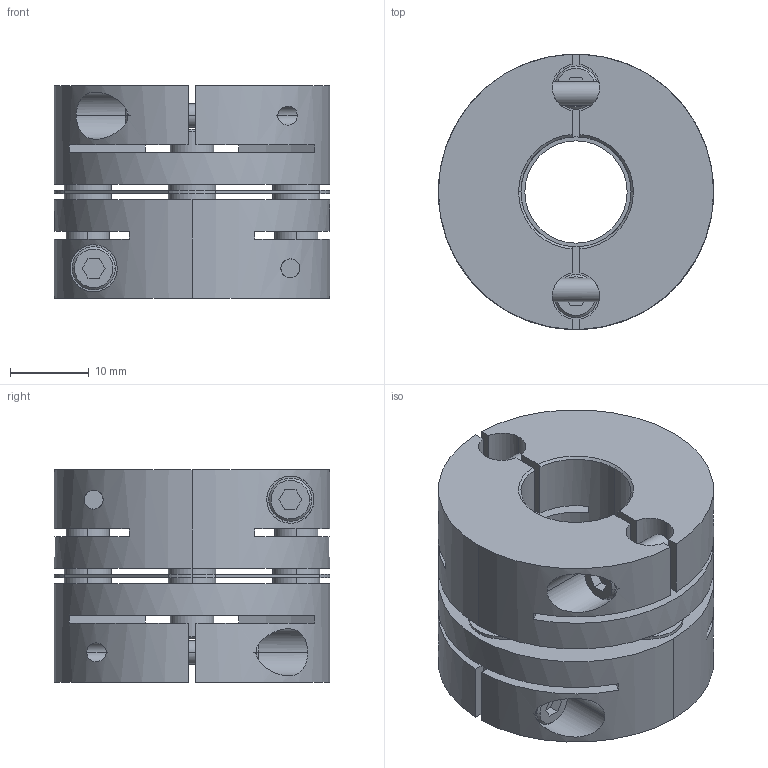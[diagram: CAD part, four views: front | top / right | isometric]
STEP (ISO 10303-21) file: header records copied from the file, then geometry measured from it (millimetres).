
FILE_DESCRIPTION((''),'2;1');
FILE_NAME('LAS-35C-14×14.stp','2011-08-10T16:51:11',(''),(''),'AutoCAD STEP 2000i','AutoCAD 2000i',', , ');
FILE_SCHEMA(('CONFIG_CONTROL_DESIGN'));
Length unit declared in the file: millimetre
Products named in the file (7): LAS-35C-14×14; 忣兜1; LA-3502-D14-1; LA-3502-D14; LA-3502-D08-1; LA-3502-D08; LAS35-ITA
Assembly tree (6 placements, depth 2):
  LAS-35C-14×14
    忣兜1
    LA-3502-D14-1
    LA-3502-D14
    LA-3502-D08-1
    LA-3502-D08
    LAS35-ITA
Bounding box: 35 x 35 x 27 mm (x, y, z)
Volume: 18370.1 mm3; surface area: 11686.9 mm2
Topology: 1 solids, 1 shells, 236 faces, 624 edges, 408 vertices
Faces by surface type: plane 112, cylinder 96, cone 28
Entity records: 8359 total; most frequent: CARTESIAN_POINT 2187, DIRECTION 1274, ORIENTED_EDGE 1248, EDGE_CURVE 624, AXIS2_PLACEMENT_3D 463, VERTEX_POINT 408, VECTOR 348, LINE 348
